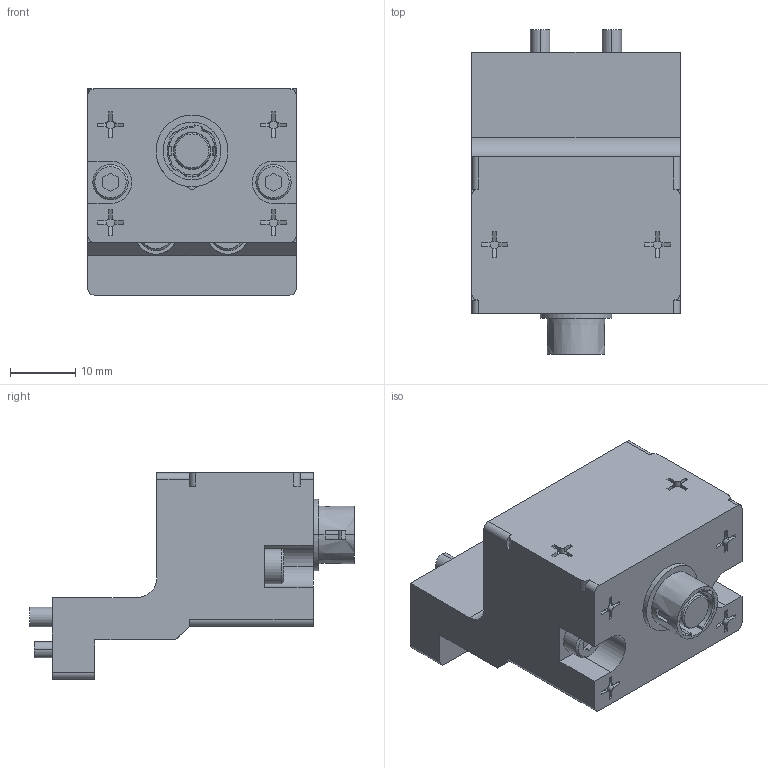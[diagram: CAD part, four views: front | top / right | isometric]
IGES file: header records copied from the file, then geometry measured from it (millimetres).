
Start section: 3D InterOp IGES (v. 2022 1.0.0), Spatial Corp. Copyright (c) 1999-2020.
Global section: file name: KHG-12RS-D14C_ver1.igs; native system: Spatial Corp.; preprocessor: 3D InterOp GENERIC/IGES 3.0; author: Noname; organization: Noname; date: 20260514.162718; units: millimetre
Bounding box: 32 x 49.8 x 31.6 mm (x, y, z)
Surface area: 8990 mm2 (no closed solid volume)
Topology: 0 solids, 0 shells, 591 faces, 2980 edges, 2979 vertices
Faces by surface type: extrusion 356, revolution 235
